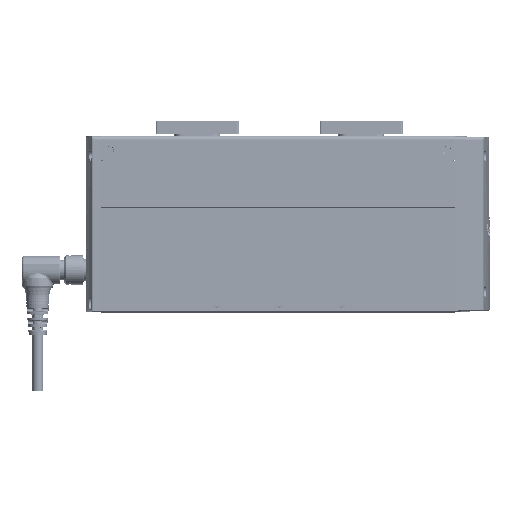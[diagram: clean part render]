
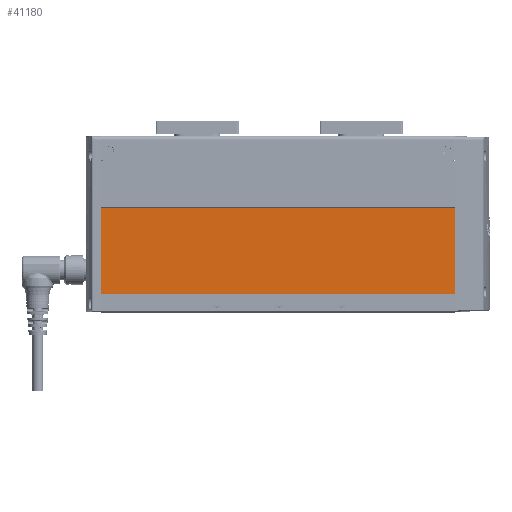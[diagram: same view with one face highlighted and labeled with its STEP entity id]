
A CAD part, top view. The second image highlights one B-rep face of the part: STEP entity #41180.
In plain terms, the highlighted planar face has unit normal (0, 0, 1).
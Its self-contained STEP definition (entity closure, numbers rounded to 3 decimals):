
#3032=PLANE('',#44854);
#5491=FACE_OUTER_BOUND('',#7778,.T.);
#7778=EDGE_LOOP('',(#32498,#32499,#32500,#32501));
#10249=LINE('',#70951,#13132);
#10284=LINE('',#71021,#13167);
#10290=LINE('',#71032,#13173);
#10292=LINE('',#71035,#13175);
#13132=VECTOR('',#52467,1000.);
#13167=VECTOR('',#52504,1000.);
#13173=VECTOR('',#52512,1000.);
#13175=VECTOR('',#52516,1000.);
#19170=VERTEX_POINT('',#70948);
#19171=VERTEX_POINT('',#70950);
#19204=VERTEX_POINT('',#71018);
#19205=VERTEX_POINT('',#71020);
#24017=EDGE_CURVE('',#19170,#19171,#10249,.T.);
#24052=EDGE_CURVE('',#19205,#19204,#10284,.T.);
#24058=EDGE_CURVE('',#19170,#19205,#10290,.T.);
#24060=EDGE_CURVE('',#19171,#19204,#10292,.T.);
#32498=ORIENTED_EDGE('',*,*,#24052,.T.);
#32499=ORIENTED_EDGE('',*,*,#24060,.F.);
#32500=ORIENTED_EDGE('',*,*,#24017,.F.);
#32501=ORIENTED_EDGE('',*,*,#24058,.T.);
#41180=ADVANCED_FACE('',(#5491),#3032,.F.);
#44854=AXIS2_PLACEMENT_3D('',#71034,#52514,#52515);
#52467=DIRECTION('',(0.,-1.,0.));
#52504=DIRECTION('',(0.,-1.,0.));
#52512=DIRECTION('',(-1.,0.,0.));
#52514=DIRECTION('center_axis',(0.,0.,
-1.));
#52515=DIRECTION('ref_axis',(0.,1.,0.));
#52516=DIRECTION('',(-1.,0.,0.));
#70948=CARTESIAN_POINT('',(84.5,50.5,23.7));
#70950=CARTESIAN_POINT('',(84.5,9.122,23.7));
#70951=CARTESIAN_POINT('',(84.5,50.5,23.7));
#71018=CARTESIAN_POINT('',(-85.5,9.122,23.7));
#71020=CARTESIAN_POINT('',(-85.5,50.5,23.7));
#71021=CARTESIAN_POINT('',(-85.5,50.5,23.7));
#71032=CARTESIAN_POINT('',(84.5,50.5,23.7));
#71034=CARTESIAN_POINT('Origin',(84.5,50.5,23.7));
#71035=CARTESIAN_POINT('',(84.5,9.122,23.7));
